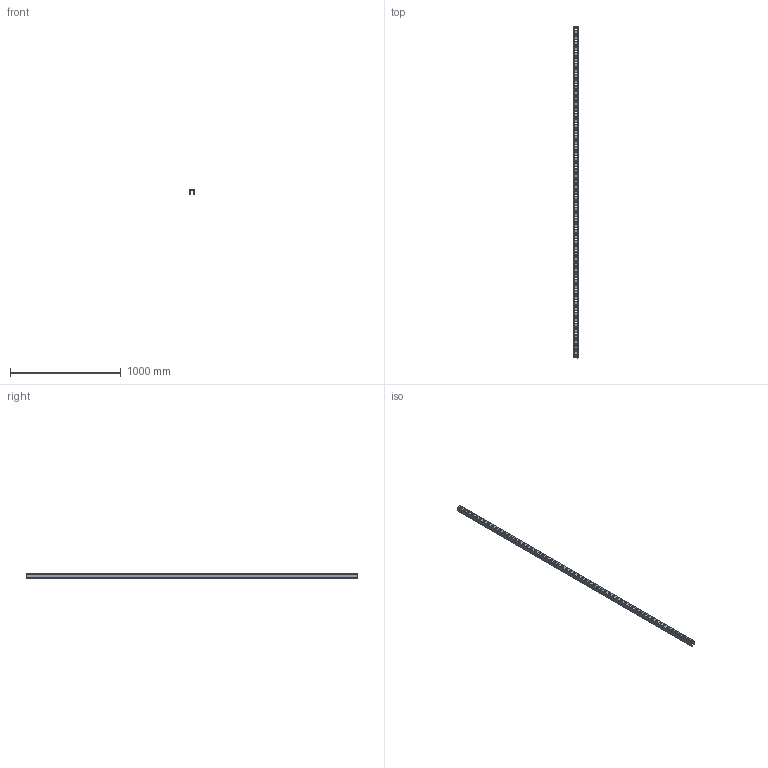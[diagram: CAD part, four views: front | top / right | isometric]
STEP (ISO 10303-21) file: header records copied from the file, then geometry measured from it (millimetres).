
FILE_DESCRIPTION(/* description */ ('','CAx-IF Rec.Pracs.---Representation and Presentation of Product Manufacturing Information (PMI)---4.0---2014-10-13'),/* implementation_level */ '2;1');
FILE_NAME(/* name */ 'GE-UCD-L3000.step',/* time_stamp */ '2025-02-12T14:39:49+03:00',/* author */ (''),/* organization */ (''),/* preprocessor_version */ 'ST-DEVELOPER v20',/* originating_system */ 'Autodesk Translation Framework v13.20.0.188',/* authorisation */ '');
FILE_SCHEMA (('AP242_MANAGED_MODEL_BASED_3D_ENGINEERING_MIM_LF { 1 0 10303 442 1 1 4 }'));
Length unit declared in the file: millimetre
Products named in the file (1): GE-UCD-41x41-L3000
Bounding box: 41 x 3000 x 41 mm (x, y, z)
Volume: 955040.9 mm3; surface area: 789337.8 mm2
Topology: 1 solids, 1 shells, 270 faces, 804 edges, 536 vertices
Faces by surface type: plane 138, cylinder 132
Entity records: 9405 total; most frequent: CARTESIAN_POINT 1611, DIRECTION 1610, ORIENTED_EDGE 1608, EDGE_CURVE 804, LINE 540, VECTOR 540, VERTEX_POINT 536, AXIS2_PLACEMENT_3D 535
